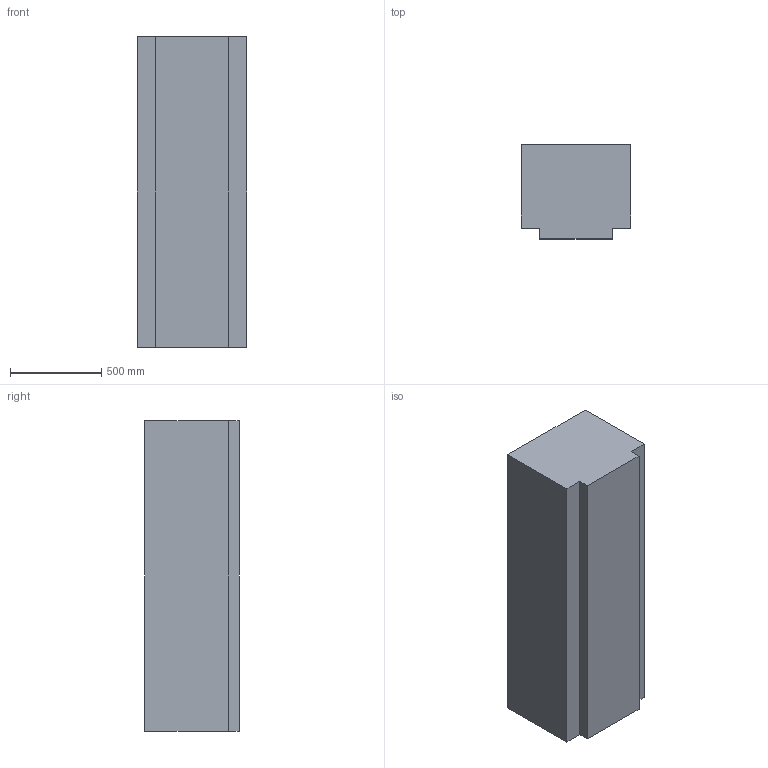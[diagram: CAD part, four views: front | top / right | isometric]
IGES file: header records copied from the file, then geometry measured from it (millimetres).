
Start section: This line is the first line of the start section. You can replacexxxxxxy these line and add as many as you want
Global section: file name: /usr2/plg/parts/_bcd/yy.iges; native system: COMPUTERVISION CADDS5 REV 5.0 GRAPHIC SYSTEM; preprocessor: CV Translator Products, Revision 1.1.3 PATCH; author: Author; organization: Organization; date: 950612.132636; units: millimetre
Bounding box: 600 x 517.77 x 1700 mm (x, y, z)
Surface area: 4397924.7 mm2 (no closed solid volume)
Topology: 0 solids, 0 shells, 10 faces, 48 edges, 48 vertices
Faces by surface type: bspline 10
